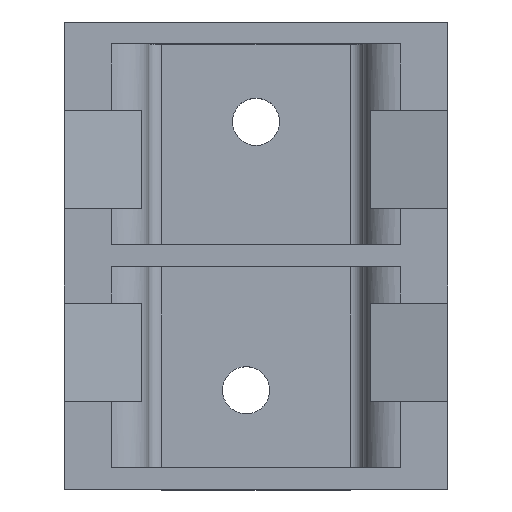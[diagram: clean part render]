
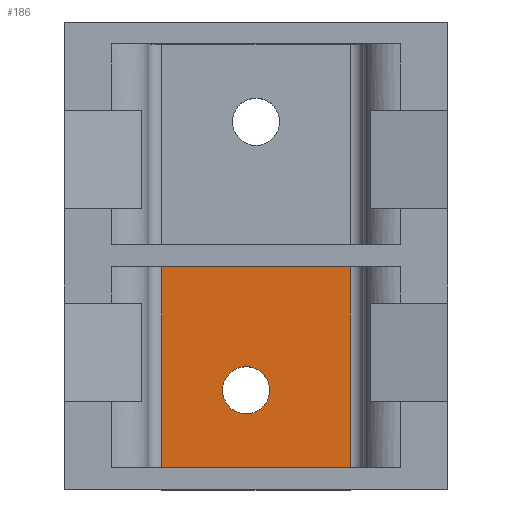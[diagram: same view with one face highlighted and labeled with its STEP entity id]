
A CAD part, top view. The second image highlights one B-rep face of the part: STEP entity #186.
In plain terms, the highlighted planar face has unit normal (0, 0, 1).
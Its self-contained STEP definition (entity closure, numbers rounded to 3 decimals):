
#186 = ADVANCED_FACE( '', ( #402, #403 ), #404, .F. );
#402 = FACE_BOUND( '', #643, .T. );
#403 = FACE_OUTER_BOUND( '', #644, .T. );
#404 = PLANE( '', #645 );
#643 = EDGE_LOOP( '', ( #1152 ) );
#644 = EDGE_LOOP( '', ( #1153, #1154, #1155, #1156 ) );
#645 = AXIS2_PLACEMENT_3D( '', #1157, #1158, #1159 );
#1152 = ORIENTED_EDGE( '', *, *, #1678, .F. );
#1153 = ORIENTED_EDGE( '', *, *, #1475, .T. );
#1154 = ORIENTED_EDGE( '', *, *, #1688, .T. );
#1155 = ORIENTED_EDGE( '', *, *, #1689, .F. );
#1156 = ORIENTED_EDGE( '', *, *, #1690, .F. );
#1157 = CARTESIAN_POINT( '', ( -8.6, -21.35, 2.2 ) );
#1158 = DIRECTION( '', ( 0., 0., -1. ) );
#1159 = DIRECTION( '', ( -1., 0., 0. ) );
#1475 = EDGE_CURVE( '', #1766, #1764, #1767, .T. );
#1678 = EDGE_CURVE( '', #2093, #2093, #2094, .T. );
#1688 = EDGE_CURVE( '', #1764, #2107, #2108, .T. );
#1689 = EDGE_CURVE( '', #2109, #2107, #2110, .T. );
#1690 = EDGE_CURVE( '', #1766, #2109, #2111, .T. );
#1764 = VERTEX_POINT( '', #2193 );
#1766 = VERTEX_POINT( '', #2195 );
#1767 = LINE( '', #2196, #2197 );
#2093 = VERTEX_POINT( '', #2637 );
#2094 = CIRCLE( '', #2638, 2.15 );
#2107 = VERTEX_POINT( '', #2658 );
#2108 = LINE( '', #2659, #2660 );
#2109 = VERTEX_POINT( '', #2661 );
#2110 = LINE( '', #2662, #2663 );
#2111 = LINE( '', #2664, #2665 );
#2193 = CARTESIAN_POINT( '', ( 8.6, -1., 2.2 ) );
#2195 = CARTESIAN_POINT( '', ( 8.6, -19.35, 2.2 ) );
#2196 = CARTESIAN_POINT( '', ( 8.6, -21.35, 2.2 ) );
#2197 = VECTOR( '', #2772, 1000. );
#2637 = CARTESIAN_POINT( '', ( -0.903, -14.4, 2.2 ) );
#2638 = AXIS2_PLACEMENT_3D( '', #3028, #3029, #3030 );
#2658 = CARTESIAN_POINT( '', ( -8.6, -1., 2.2 ) );
#2659 = CARTESIAN_POINT( '', ( -8.6, -1., 2.2 ) );
#2660 = VECTOR( '', #3038, 1000. );
#2661 = CARTESIAN_POINT( '', ( -8.6, -19.35, 2.2 ) );
#2662 = CARTESIAN_POINT( '', ( -8.6, -21.35, 2.2 ) );
#2663 = VECTOR( '', #3039, 1000. );
#2664 = CARTESIAN_POINT( '', ( -8.6, -19.35, 2.2 ) );
#2665 = VECTOR( '', #3040, 1000. );
#2772 = DIRECTION( '', ( 0., 1., 0. ) );
#3028 = CARTESIAN_POINT( '', ( -0.903, -12.25, 2.2 ) );
#3029 = DIRECTION( '', ( 0., 0., 1. ) );
#3030 = DIRECTION( '', ( 0., -1., 0. ) );
#3038 = DIRECTION( '', ( -1., 0., 0. ) );
#3039 = DIRECTION( '', ( 0., 1., 0. ) );
#3040 = DIRECTION( '', ( -1., 0., 0. ) );
